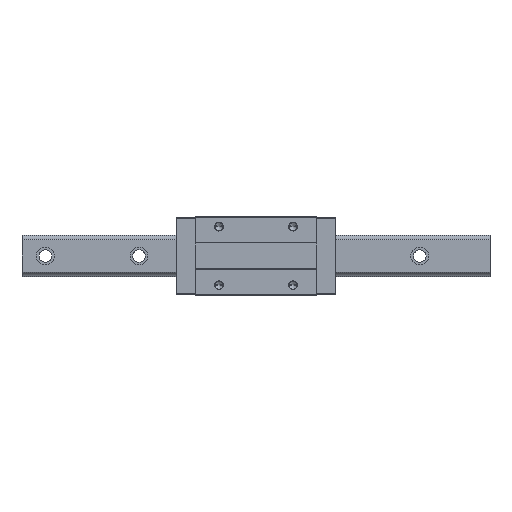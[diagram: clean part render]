
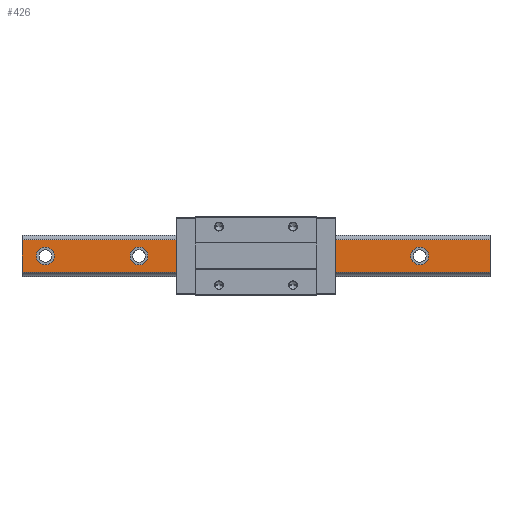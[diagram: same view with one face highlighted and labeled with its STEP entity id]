
A CAD part, top view. The second image highlights one B-rep face of the part: STEP entity #426.
In plain terms, the highlighted planar face has unit normal (0, 0, 1).
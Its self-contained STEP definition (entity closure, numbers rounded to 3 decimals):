
#45 = EDGE_CURVE ( 'NONE', #3460, #1290, #2137, .T. ) ;
#74 = CARTESIAN_POINT ( 'NONE',  ( -30., 0., 44. ) ) ;
#105 = DIRECTION ( 'NONE',  ( 0., 0., 1. ) ) ;
#199 = ORIENTED_EDGE ( 'NONE', *, *, #4103, .F. ) ;
#250 = DIRECTION ( 'NONE',  ( 1., 0., 0. ) ) ;
#258 = DIRECTION ( 'NONE',  ( 0., 0., 1. ) ) ;
#298 = CIRCLE ( 'NONE', #3990, 11.5 ) ;
#426 = ADVANCED_FACE ( 'NONE', ( #4446, #5331, #1112, #2795, #1936, #5302 ), #4059, .F. ) ;
#460 = EDGE_CURVE ( 'NONE', #5113, #4930, #4974, .T. ) ;
#473 = DIRECTION ( 'NONE',  ( -1., 0., 0. ) ) ;
#514 = CARTESIAN_POINT ( 'NONE',  ( -138.5, 0., 44. ) ) ;
#533 = VERTEX_POINT ( 'NONE', #2636 ) ;
#538 = DIRECTION ( 'NONE',  ( 0., -1., 0. ) ) ;
#549 = EDGE_LOOP ( 'NONE', ( #2426, #5398 ) ) ;
#558 = ORIENTED_EDGE ( 'NONE', *, *, #4943, .T. ) ;
#616 = DIRECTION ( 'NONE',  ( 0., -1., 0. ) ) ;
#628 = AXIS2_PLACEMENT_3D ( 'NONE', #1198, #258, #4946 ) ;
#651 = CARTESIAN_POINT ( 'NONE',  ( -300., 20.894, 44. ) ) ;
#719 = DIRECTION ( 'NONE',  ( 0., 0., 1. ) ) ;
#833 = VERTEX_POINT ( 'NONE', #997 ) ;
#867 = EDGE_CURVE ( 'NONE', #4930, #5113, #5142, .T. ) ;
#869 = EDGE_LOOP ( 'NONE', ( #1222, #4461 ) ) ;
#876 = CARTESIAN_POINT ( 'NONE',  ( 300., -20.894, 44. ) ) ;
#935 = CIRCLE ( 'NONE', #4991, 11.5 ) ;
#997 = CARTESIAN_POINT ( 'NONE',  ( 300., -20.894, 44. ) ) ;
#1050 = CARTESIAN_POINT ( 'NONE',  ( 300., 20.894, 44. ) ) ;
#1086 = EDGE_LOOP ( 'NONE', ( #4320, #3703 ) ) ;
#1112 = FACE_BOUND ( 'NONE', #1086, .T. ) ;
#1121 = CIRCLE ( 'NONE', #1572, 11.5 ) ;
#1198 = CARTESIAN_POINT ( 'NONE',  ( -30., 0., 44. ) ) ;
#1201 = AXIS2_PLACEMENT_3D ( 'NONE', #4213, #105, #2138 ) ;
#1211 = EDGE_CURVE ( 'NONE', #3107, #4727, #2870, .T. ) ;
#1218 = AXIS2_PLACEMENT_3D ( 'NONE', #4845, #2720, #4874 ) ;
#1222 = ORIENTED_EDGE ( 'NONE', *, *, #2413, .F. ) ;
#1248 = EDGE_LOOP ( 'NONE', ( #199, #2622 ) ) ;
#1283 = CARTESIAN_POINT ( 'NONE',  ( 78.5, 0., 44. ) ) ;
#1290 = VERTEX_POINT ( 'NONE', #514 ) ;
#1308 = CARTESIAN_POINT ( 'NONE',  ( 90., 0., 44. ) ) ;
#1343 = ORIENTED_EDGE ( 'NONE', *, *, #2387, .T. ) ;
#1380 = CARTESIAN_POINT ( 'NONE',  ( -150., 0., 44. ) ) ;
#1455 = VERTEX_POINT ( 'NONE', #4282 ) ;
#1563 = CARTESIAN_POINT ( 'NONE',  ( 300., -20.894, 44. ) ) ;
#1572 = AXIS2_PLACEMENT_3D ( 'NONE', #74, #3060, #4705 ) ;
#1623 = CARTESIAN_POINT ( 'NONE',  ( -150., 0., 44. ) ) ;
#1640 = CARTESIAN_POINT ( 'NONE',  ( -258.5, 0., 44. ) ) ;
#1936 = FACE_BOUND ( 'NONE', #1248, .T. ) ;
#1946 = EDGE_CURVE ( 'NONE', #3488, #533, #935, .T. ) ;
#2015 = CARTESIAN_POINT ( 'NONE',  ( 101.5, 0., 44. ) ) ;
#2044 = CARTESIAN_POINT ( 'NONE',  ( -41.5, 0., 44. ) ) ;
#2132 = EDGE_CURVE ( 'NONE', #1290, #3460, #3840, .T. ) ;
#2136 = EDGE_CURVE ( 'NONE', #3985, #4515, #1121, .T. ) ;
#2137 = CIRCLE ( 'NONE', #4788, 11.5 ) ;
#2138 = DIRECTION ( 'NONE',  ( 1., 0., 0. ) ) ;
#2163 = VECTOR ( 'NONE', #473, 1000. ) ;
#2247 = EDGE_CURVE ( 'NONE', #3918, #833, #2635, .T. ) ;
#2311 = DIRECTION ( 'NONE',  ( -1., 0., 0. ) ) ;
#2340 = CARTESIAN_POINT ( 'NONE',  ( 210., 0., 44. ) ) ;
#2387 = EDGE_CURVE ( 'NONE', #2938, #1455, #3573, .T. ) ;
#2404 = DIRECTION ( 'NONE',  ( 1., 0., 0. ) ) ;
#2407 = CARTESIAN_POINT ( 'NONE',  ( -18.5, 0., 44. ) ) ;
#2413 = EDGE_CURVE ( 'NONE', #4727, #3107, #4025, .T. ) ;
#2426 = ORIENTED_EDGE ( 'NONE', *, *, #2132, .F. ) ;
#2552 = ORIENTED_EDGE ( 'NONE', *, *, #2247, .F. ) ;
#2622 = ORIENTED_EDGE ( 'NONE', *, *, #1946, .F. ) ;
#2635 = LINE ( 'NONE', #876, #3059 ) ;
#2636 = CARTESIAN_POINT ( 'NONE',  ( 221.5, 0., 44. ) ) ;
#2720 = DIRECTION ( 'NONE',  ( 0., 0., 1. ) ) ;
#2795 = FACE_BOUND ( 'NONE', #4756, .T. ) ;
#2821 = DIRECTION ( 'NONE',  ( 0., -1., 0. ) ) ;
#2870 = CIRCLE ( 'NONE', #1201, 11.5 ) ;
#2938 = VERTEX_POINT ( 'NONE', #651 ) ;
#2965 = VECTOR ( 'NONE', #616, 1000. ) ;
#2984 = ORIENTED_EDGE ( 'NONE', *, *, #867, .F. ) ;
#3028 = DIRECTION ( 'NONE',  ( 0., 0., 1. ) ) ;
#3030 = AXIS2_PLACEMENT_3D ( 'NONE', #1563, #4031, #2821 ) ;
#3059 = VECTOR ( 'NONE', #538, 1000. ) ;
#3060 = DIRECTION ( 'NONE',  ( 0., 0., 1. ) ) ;
#3107 = VERTEX_POINT ( 'NONE', #5058 ) ;
#3122 = DIRECTION ( 'NONE',  ( 0., 0., 1. ) ) ;
#3241 = EDGE_CURVE ( 'NONE', #833, #1455, #4334, .T. ) ;
#3325 = CARTESIAN_POINT ( 'NONE',  ( -161.5, 0., 44. ) ) ;
#3445 = DIRECTION ( 'NONE',  ( 1., 0., 0. ) ) ;
#3460 = VERTEX_POINT ( 'NONE', #3325 ) ;
#3488 = VERTEX_POINT ( 'NONE', #5025 ) ;
#3573 = LINE ( 'NONE', #4819, #2965 ) ;
#3611 = DIRECTION ( 'NONE',  ( 0., 0., 1. ) ) ;
#3625 = DIRECTION ( 'NONE',  ( 0., 0., 1. ) ) ;
#3703 = ORIENTED_EDGE ( 'NONE', *, *, #2136, .F. ) ;
#3738 = AXIS2_PLACEMENT_3D ( 'NONE', #1308, #4297, #3445 ) ;
#3840 = CIRCLE ( 'NONE', #5075, 11.5 ) ;
#3918 = VERTEX_POINT ( 'NONE', #4662 ) ;
#3975 = VECTOR ( 'NONE', #2311, 1000. ) ;
#3985 = VERTEX_POINT ( 'NONE', #2044 ) ;
#3990 = AXIS2_PLACEMENT_3D ( 'NONE', #4323, #3122, #4266 ) ;
#4025 = CIRCLE ( 'NONE', #1218, 11.5 ) ;
#4031 = DIRECTION ( 'NONE',  ( 0., 0., -1. ) ) ;
#4059 = PLANE ( 'NONE',  #3030 ) ;
#4103 = EDGE_CURVE ( 'NONE', #533, #3488, #298, .T. ) ;
#4213 = CARTESIAN_POINT ( 'NONE',  ( -270., 0., 44. ) ) ;
#4250 = CARTESIAN_POINT ( 'NONE',  ( 300., -20.894, 44. ) ) ;
#4266 = DIRECTION ( 'NONE',  ( 1., 0., 0. ) ) ;
#4282 = CARTESIAN_POINT ( 'NONE',  ( -300., -20.894, 44. ) ) ;
#4288 = DIRECTION ( 'NONE',  ( 1., 0., 0. ) ) ;
#4297 = DIRECTION ( 'NONE',  ( 0., 0., 1. ) ) ;
#4320 = ORIENTED_EDGE ( 'NONE', *, *, #5321, .F. ) ;
#4323 = CARTESIAN_POINT ( 'NONE',  ( 210., 0., 44. ) ) ;
#4334 = LINE ( 'NONE', #4250, #2163 ) ;
#4345 = AXIS2_PLACEMENT_3D ( 'NONE', #4891, #719, #2404 ) ;
#4446 = FACE_BOUND ( 'NONE', #869, .T. ) ;
#4461 = ORIENTED_EDGE ( 'NONE', *, *, #1211, .F. ) ;
#4475 = LINE ( 'NONE', #1050, #3975 ) ;
#4515 = VERTEX_POINT ( 'NONE', #2407 ) ;
#4636 = ORIENTED_EDGE ( 'NONE', *, *, #3241, .F. ) ;
#4662 = CARTESIAN_POINT ( 'NONE',  ( 300., 20.894, 44. ) ) ;
#4705 = DIRECTION ( 'NONE',  ( 1., 0., 0. ) ) ;
#4727 = VERTEX_POINT ( 'NONE', #1640 ) ;
#4756 = EDGE_LOOP ( 'NONE', ( #2984, #4931 ) ) ;
#4787 = EDGE_LOOP ( 'NONE', ( #1343, #4636, #2552, #558 ) ) ;
#4788 = AXIS2_PLACEMENT_3D ( 'NONE', #1623, #3625, #5340 ) ;
#4819 = CARTESIAN_POINT ( 'NONE',  ( -300., -20.894, 44. ) ) ;
#4845 = CARTESIAN_POINT ( 'NONE',  ( -270., 0., 44. ) ) ;
#4874 = DIRECTION ( 'NONE',  ( 1., 0., 0. ) ) ;
#4891 = CARTESIAN_POINT ( 'NONE',  ( 90., 0., 44. ) ) ;
#4930 = VERTEX_POINT ( 'NONE', #2015 ) ;
#4931 = ORIENTED_EDGE ( 'NONE', *, *, #460, .F. ) ;
#4943 = EDGE_CURVE ( 'NONE', #3918, #2938, #4475, .T. ) ;
#4946 = DIRECTION ( 'NONE',  ( 1., 0., 0. ) ) ;
#4974 = CIRCLE ( 'NONE', #4345, 11.5 ) ;
#4991 = AXIS2_PLACEMENT_3D ( 'NONE', #2340, #3611, #250 ) ;
#5025 = CARTESIAN_POINT ( 'NONE',  ( 198.5, 0., 44. ) ) ;
#5058 = CARTESIAN_POINT ( 'NONE',  ( -281.5, 0., 44. ) ) ;
#5075 = AXIS2_PLACEMENT_3D ( 'NONE', #1380, #3028, #4288 ) ;
#5113 = VERTEX_POINT ( 'NONE', #1283 ) ;
#5142 = CIRCLE ( 'NONE', #3738, 11.5 ) ;
#5302 = FACE_OUTER_BOUND ( 'NONE', #4787, .T. ) ;
#5321 = EDGE_CURVE ( 'NONE', #4515, #3985, #5393, .T. ) ;
#5331 = FACE_BOUND ( 'NONE', #549, .T. ) ;
#5340 = DIRECTION ( 'NONE',  ( 1., 0., 0. ) ) ;
#5393 = CIRCLE ( 'NONE', #628, 11.5 ) ;
#5398 = ORIENTED_EDGE ( 'NONE', *, *, #45, .F. ) ;
